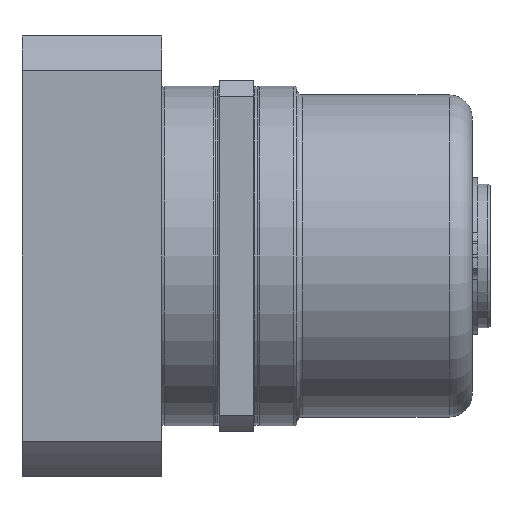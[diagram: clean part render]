
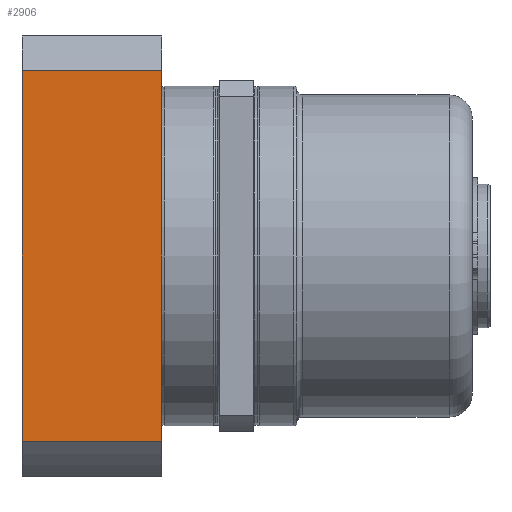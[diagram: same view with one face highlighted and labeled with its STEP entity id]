
A CAD part, front view. The second image highlights one B-rep face of the part: STEP entity #2906.
In plain terms, the highlighted planar face has unit normal (0, -1, 0).
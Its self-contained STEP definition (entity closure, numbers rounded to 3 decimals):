
#533 = EDGE_CURVE ( 'NONE', #1806, #12693, #8949, .T. ) ;
#677 = CARTESIAN_POINT ( 'NONE',  ( 0., -76.5, 64.403 ) ) ;
#913 = CARTESIAN_POINT ( 'NONE',  ( -75.343, -76.5, -64.403 ) ) ;
#1044 = DIRECTION ( 'NONE',  ( 0., 0., 1. ) ) ;
#1188 = CARTESIAN_POINT ( 'NONE',  ( 0., -76.5, -64.403 ) ) ;
#1806 = VERTEX_POINT ( 'NONE', #13158 ) ;
#1979 = FACE_OUTER_BOUND ( 'NONE', #13039, .T. ) ;
#2045 = DIRECTION ( 'NONE',  ( 0., 0., 1. ) ) ;
#2906 = ADVANCED_FACE ( 'NONE', ( #1979 ), #10950, .T. ) ;
#2943 = VECTOR ( 'NONE', #1044, 1000. ) ;
#2978 = LINE ( 'NONE', #3985, #2943 ) ;
#3503 = LINE ( 'NONE', #11562, #10688 ) ;
#3985 = CARTESIAN_POINT ( 'NONE',  ( -48.5, -76.5, -76.5 ) ) ;
#4134 = DIRECTION ( 'NONE',  ( 1., 0., 0. ) ) ;
#4187 = VERTEX_POINT ( 'NONE', #677 ) ;
#4827 = ORIENTED_EDGE ( 'NONE', *, *, #10194, .F. ) ;
#5257 = VECTOR ( 'NONE', #2045, 1000. ) ;
#5599 = ORIENTED_EDGE ( 'NONE', *, *, #533, .T. ) ;
#5670 = VECTOR ( 'NONE', #4134, 1000. ) ;
#8132 = CARTESIAN_POINT ( 'NONE',  ( -48.5, -76.5, 64.403 ) ) ;
#8949 = LINE ( 'NONE', #913, #5670 ) ;
#8995 = CARTESIAN_POINT ( 'NONE',  ( 0., -76.5, -76.5 ) ) ;
#9059 = AXIS2_PLACEMENT_3D ( 'NONE', #8995, #13160, #10874 ) ;
#10194 = EDGE_CURVE ( 'NONE', #1806, #10815, #2978, .T. ) ;
#10688 = VECTOR ( 'NONE', #11424, 1000. ) ;
#10815 = VERTEX_POINT ( 'NONE', #8132 ) ;
#10874 = DIRECTION ( 'NONE',  ( 0., 0., -1. ) ) ;
#10901 = ORIENTED_EDGE ( 'NONE', *, *, #12015, .T. ) ;
#10950 = PLANE ( 'NONE',  #9059 ) ;
#10993 = EDGE_CURVE ( 'NONE', #4187, #10815, #3503, .T. ) ;
#11214 = CARTESIAN_POINT ( 'NONE',  ( 0., -76.5, -76.5 ) ) ;
#11424 = DIRECTION ( 'NONE',  ( -1., 0., 0. ) ) ;
#11562 = CARTESIAN_POINT ( 'NONE',  ( -75.343, -76.5, 64.403 ) ) ;
#12015 = EDGE_CURVE ( 'NONE', #12693, #4187, #12210, .T. ) ;
#12210 = LINE ( 'NONE', #11214, #5257 ) ;
#12231 = ORIENTED_EDGE ( 'NONE', *, *, #10993, .T. ) ;
#12693 = VERTEX_POINT ( 'NONE', #1188 ) ;
#13039 = EDGE_LOOP ( 'NONE', ( #12231, #4827, #5599, #10901 ) ) ;
#13158 = CARTESIAN_POINT ( 'NONE',  ( -48.5, -76.5, -64.403 ) ) ;
#13160 = DIRECTION ( 'NONE',  ( 0., -1., 0. ) ) ;
